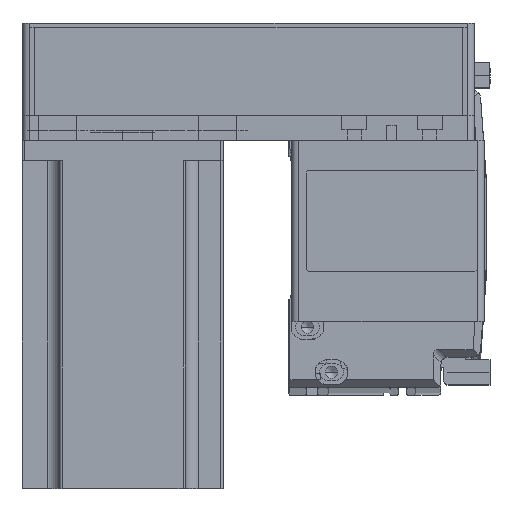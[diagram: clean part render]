
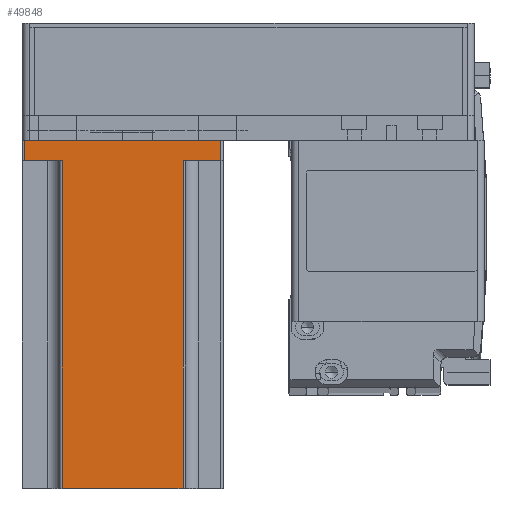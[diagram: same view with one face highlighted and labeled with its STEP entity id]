
A CAD part, top view. The second image highlights one B-rep face of the part: STEP entity #49848.
In plain terms, the highlighted planar face has unit normal (0, 0, 1) as drawn and (0, 1, 0) by its records, which use the part's own axes.
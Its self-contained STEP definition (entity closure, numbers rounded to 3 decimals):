
#139 = ORIENTED_EDGE ( 'NONE', *, *, #3645, .F. ) ;
#779 = CARTESIAN_POINT ( 'NONE',  ( 24., 40., 8. ) ) ;
#1140 = LINE ( 'NONE', #5212, #25113 ) ;
#1398 = AXIS2_PLACEMENT_3D ( 'NONE', #21177, #52670, #25733 ) ;
#3062 = PLANE ( 'NONE',  #1398 ) ;
#3645 = EDGE_CURVE ( 'NONE', #21883, #22863, #40830, .T. ) ;
#4075 = VECTOR ( 'NONE', #36700, 1000. ) ;
#4963 = VERTEX_POINT ( 'NONE', #18446 ) ;
#5212 = CARTESIAN_POINT ( 'NONE',  ( -25., 40., 8. ) ) ;
#6111 = DIRECTION ( 'NONE',  ( -1., 0., 0. ) ) ;
#6668 = CARTESIAN_POINT ( 'NONE',  ( 39., 40., 138.3 ) ) ;
#9210 = CARTESIAN_POINT ( 'NONE',  ( 24., 40., 138.3 ) ) ;
#9856 = ORIENTED_EDGE ( 'NONE', *, *, #45017, .T. ) ;
#11221 = DIRECTION ( 'NONE',  ( 0., 0., -1. ) ) ;
#11769 = ORIENTED_EDGE ( 'NONE', *, *, #12171, .F. ) ;
#12171 = EDGE_CURVE ( 'NONE', #58004, #25907, #28060, .T. ) ;
#12630 = EDGE_CURVE ( 'NONE', #58004, #22863, #27931, .T. ) ;
#12970 = CARTESIAN_POINT ( 'NONE',  ( -24., 40., 138.3 ) ) ;
#14199 = CARTESIAN_POINT ( 'NONE',  ( 40., 40., 138.3 ) ) ;
#15120 = CARTESIAN_POINT ( 'NONE',  ( 39., 40., 0. ) ) ;
#17036 = VERTEX_POINT ( 'NONE', #51755 ) ;
#17357 = ORIENTED_EDGE ( 'NONE', *, *, #57252, .T. ) ;
#17391 = LINE ( 'NONE', #12970, #39962 ) ;
#17476 = DIRECTION ( 'NONE',  ( 0., 0., 1. ) ) ;
#18237 = VECTOR ( 'NONE', #29312, 1000. ) ;
#18446 = CARTESIAN_POINT ( 'NONE',  ( -39., 40., 8. ) ) ;
#19544 = CARTESIAN_POINT ( 'NONE',  ( 25., 40., 8. ) ) ;
#19968 = CARTESIAN_POINT ( 'NONE',  ( -39., 40., 0. ) ) ;
#21087 = LINE ( 'NONE', #24783, #18237 ) ;
#21177 = CARTESIAN_POINT ( 'NONE',  ( 40., 40., 138.3 ) ) ;
#21883 = VERTEX_POINT ( 'NONE', #56007 ) ;
#22863 = VERTEX_POINT ( 'NONE', #779 ) ;
#23191 = DIRECTION ( 'NONE',  ( -1., 0., 0. ) ) ;
#23337 = ORIENTED_EDGE ( 'NONE', *, *, #48152, .T. ) ;
#23517 = VECTOR ( 'NONE', #11221, 1000. ) ;
#23647 = ORIENTED_EDGE ( 'NONE', *, *, #35961, .T. ) ;
#23993 = VERTEX_POINT ( 'NONE', #15120 ) ;
#24783 = CARTESIAN_POINT ( 'NONE',  ( -39., 40., 138.3 ) ) ;
#25113 = VECTOR ( 'NONE', #36786, 1000. ) ;
#25733 = DIRECTION ( 'NONE',  ( 1., 0., 0. ) ) ;
#25820 = EDGE_CURVE ( 'NONE', #4963, #17036, #1140, .T. ) ;
#25907 = VERTEX_POINT ( 'NONE', #42087 ) ;
#26850 = ORIENTED_EDGE ( 'NONE', *, *, #12630, .T. ) ;
#27931 = LINE ( 'NONE', #9210, #50469 ) ;
#28060 = LINE ( 'NONE', #14199, #4075 ) ;
#28848 = VECTOR ( 'NONE', #6111, 1000. ) ;
#29312 = DIRECTION ( 'NONE',  ( 0., 0., 1. ) ) ;
#33075 = VERTEX_POINT ( 'NONE', #19968 ) ;
#33133 = FACE_OUTER_BOUND ( 'NONE', #34263, .T. ) ;
#34086 = LINE ( 'NONE', #6668, #23517 ) ;
#34263 = EDGE_LOOP ( 'NONE', ( #38874, #23647, #11769, #26850, #139, #23337, #17357, #9856 ) ) ;
#35961 = EDGE_CURVE ( 'NONE', #17036, #25907, #17391, .T. ) ;
#36700 = DIRECTION ( 'NONE',  ( -1., 0., 0. ) ) ;
#36786 = DIRECTION ( 'NONE',  ( 1., 0., 0. ) ) ;
#38874 = ORIENTED_EDGE ( 'NONE', *, *, #25820, .T. ) ;
#39962 = VECTOR ( 'NONE', #17476, 1000. ) ;
#40830 = LINE ( 'NONE', #19544, #28848 ) ;
#42087 = CARTESIAN_POINT ( 'NONE',  ( -24., 40., 138.3 ) ) ;
#45017 = EDGE_CURVE ( 'NONE', #33075, #4963, #21087, .T. ) ;
#45690 = CARTESIAN_POINT ( 'NONE',  ( 40., 40., 0. ) ) ;
#45954 = VECTOR ( 'NONE', #23191, 1000. ) ;
#48152 = EDGE_CURVE ( 'NONE', #21883, #23993, #34086, .T. ) ;
#49625 = DIRECTION ( 'NONE',  ( 0., 0., -1. ) ) ;
#49848 = ADVANCED_FACE ( 'NONE', ( #33133 ), #3062, .F. ) ;
#50469 = VECTOR ( 'NONE', #49625, 1000. ) ;
#51755 = CARTESIAN_POINT ( 'NONE',  ( -24., 40., 8. ) ) ;
#52670 = DIRECTION ( 'NONE',  ( 0., -1., 0. ) ) ;
#55758 = CARTESIAN_POINT ( 'NONE',  ( 24., 40., 138.3 ) ) ;
#56007 = CARTESIAN_POINT ( 'NONE',  ( 39., 40., 8. ) ) ;
#57252 = EDGE_CURVE ( 'NONE', #23993, #33075, #57823, .T. ) ;
#57823 = LINE ( 'NONE', #45690, #45954 ) ;
#58004 = VERTEX_POINT ( 'NONE', #55758 ) ;
